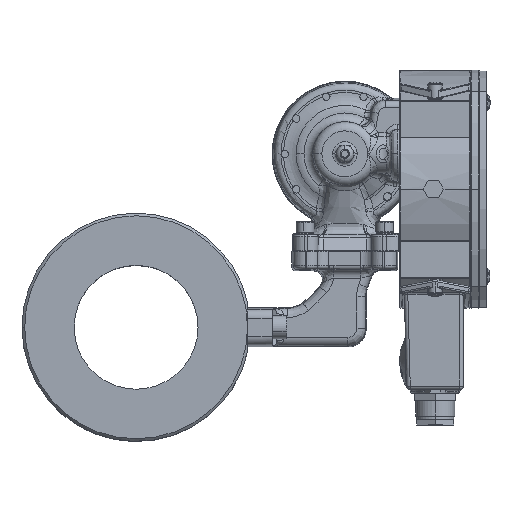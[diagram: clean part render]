
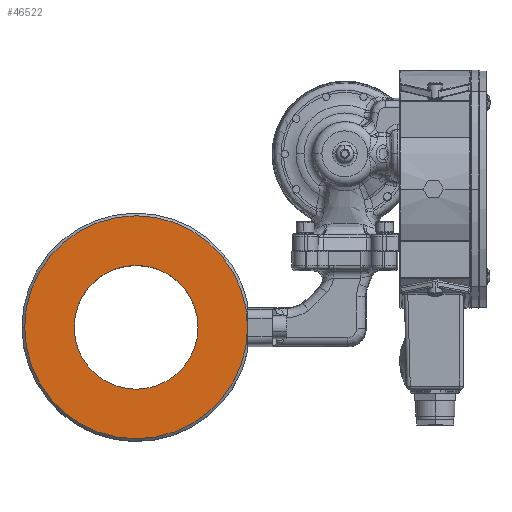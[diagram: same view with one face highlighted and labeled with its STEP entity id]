
A CAD part, top view. The second image highlights one B-rep face of the part: STEP entity #46522.
In plain terms, the highlighted planar face has unit normal (0, 0, 1).
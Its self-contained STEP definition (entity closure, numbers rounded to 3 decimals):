
#321 = DIRECTION ( 'NONE',  ( -1., 0., 0. ) ) ;
#8822 = CARTESIAN_POINT ( 'NONE',  ( -118.19, -67.693, 57.468 ) ) ;
#9078 = FACE_BOUND ( 'NONE', #11003, .T. ) ;
#9607 = AXIS2_PLACEMENT_3D ( 'NONE', #92262, #14195, #69174 ) ;
#11003 = EDGE_LOOP ( 'NONE', ( #23734, #78857 ) ) ;
#11357 = CIRCLE ( 'NONE', #86429, 63. ) ;
#13648 = CIRCLE ( 'NONE', #51216, 35. ) ;
#14195 = DIRECTION ( 'NONE',  ( 0., 0., 1. ) ) ;
#16679 = ORIENTED_EDGE ( 'NONE', *, *, #71560, .F. ) ;
#16803 = DIRECTION ( 'NONE',  ( -1., 0., 0. ) ) ;
#23734 = ORIENTED_EDGE ( 'NONE', *, *, #23964, .T. ) ;
#23964 = EDGE_CURVE ( 'NONE', #97784, #88170, #29289, .T. ) ;
#25971 = CARTESIAN_POINT ( 'NONE',  ( -153.19, -67.693, 57.468 ) ) ;
#26817 = AXIS2_PLACEMENT_3D ( 'NONE', #8822, #63862, #16803 ) ;
#27889 = CIRCLE ( 'NONE', #85183, 63. ) ;
#29289 = CIRCLE ( 'NONE', #26817, 35. ) ;
#31770 = DIRECTION ( 'NONE',  ( 0., 0., -1. ) ) ;
#43200 = CARTESIAN_POINT ( 'NONE',  ( -55.19, -67.693, 57.468 ) ) ;
#43226 = EDGE_LOOP ( 'NONE', ( #16679, #71438 ) ) ;
#45445 = CARTESIAN_POINT ( 'NONE',  ( -118.19, -67.693, 57.468 ) ) ;
#46522 = ADVANCED_FACE ( 'NONE', ( #9078, #51079 ), #61266, .T. ) ;
#47735 = DIRECTION ( 'NONE',  ( 0., 0., -1. ) ) ;
#51079 = FACE_OUTER_BOUND ( 'NONE', #43226, .T. ) ;
#51216 = AXIS2_PLACEMENT_3D ( 'NONE', #94393, #47735, #321 ) ;
#53337 = DIRECTION ( 'NONE',  ( -1., 0., 0. ) ) ;
#61266 = PLANE ( 'NONE',  #9607 ) ;
#63862 = DIRECTION ( 'NONE',  ( 0., 0., -1. ) ) ;
#69174 = DIRECTION ( 'NONE',  ( 0., -1., 0. ) ) ;
#70793 = VERTEX_POINT ( 'NONE', #43200 ) ;
#71438 = ORIENTED_EDGE ( 'NONE', *, *, #92637, .F. ) ;
#71560 = EDGE_CURVE ( 'NONE', #70793, #72609, #27889, .T. ) ;
#72609 = VERTEX_POINT ( 'NONE', #92547 ) ;
#78658 = CARTESIAN_POINT ( 'NONE',  ( -118.19, -67.693, 57.468 ) ) ;
#78857 = ORIENTED_EDGE ( 'NONE', *, *, #79162, .T. ) ;
#79162 = EDGE_CURVE ( 'NONE', #88170, #97784, #13648, .T. ) ;
#85183 = AXIS2_PLACEMENT_3D ( 'NONE', #45445, #99885, #53337 ) ;
#86409 = DIRECTION ( 'NONE',  ( -1., 0., 0. ) ) ;
#86429 = AXIS2_PLACEMENT_3D ( 'NONE', #78658, #31770, #86409 ) ;
#86973 = CARTESIAN_POINT ( 'NONE',  ( -83.19, -67.693, 57.468 ) ) ;
#88170 = VERTEX_POINT ( 'NONE', #86973 ) ;
#92262 = CARTESIAN_POINT ( 'NONE',  ( -112.441, -67.693, 57.468 ) ) ;
#92547 = CARTESIAN_POINT ( 'NONE',  ( -181.19, -67.693, 57.468 ) ) ;
#92637 = EDGE_CURVE ( 'NONE', #72609, #70793, #11357, .T. ) ;
#94393 = CARTESIAN_POINT ( 'NONE',  ( -118.19, -67.693, 57.468 ) ) ;
#97784 = VERTEX_POINT ( 'NONE', #25971 ) ;
#99885 = DIRECTION ( 'NONE',  ( 0., 0., -1. ) ) ;
